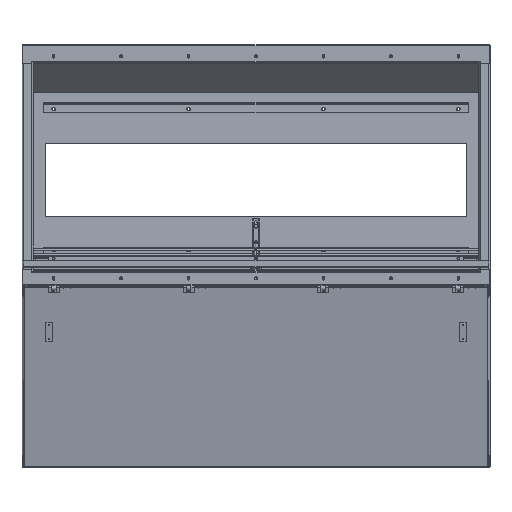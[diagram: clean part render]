
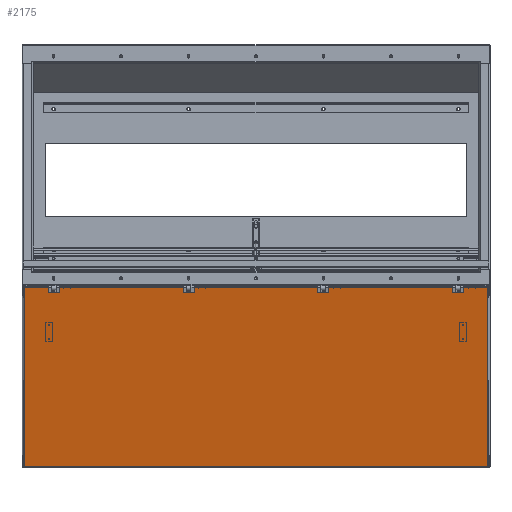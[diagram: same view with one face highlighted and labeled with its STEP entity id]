
A CAD part, top view. The second image highlights one B-rep face of the part: STEP entity #2175.
In plain terms, the highlighted planar face has unit normal (0, -0.208, 0.978) as drawn and (0, -1, 0) by its records, which use the part's own axes.
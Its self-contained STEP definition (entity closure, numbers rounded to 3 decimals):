
#2175 = ADVANCED_FACE( '', ( #3512 ), #3513, .T. );
#3512 = FACE_OUTER_BOUND( '', #5373, .T. );
#3513 = PLANE( '', #5374 );
#5373 = EDGE_LOOP( '', ( #10549, #10550, #10551, #10552, #10553, #10554, #10555, #10556, #10557, #10558, #10559, #10560, #10561, #10562, #10563, #10564, #10565, #10566, #10567, #10568 ) );
#5374 = AXIS2_PLACEMENT_3D( '', #10569, #10570, #10571 );
#10549 = ORIENTED_EDGE( '', *, *, #13900, .T. );
#10550 = ORIENTED_EDGE( '', *, *, #13901, .T. );
#10551 = ORIENTED_EDGE( '', *, *, #13902, .T. );
#10552 = ORIENTED_EDGE( '', *, *, #13903, .F. );
#10553 = ORIENTED_EDGE( '', *, *, #13904, .T. );
#10554 = ORIENTED_EDGE( '', *, *, #13905, .T. );
#10555 = ORIENTED_EDGE( '', *, *, #13906, .T. );
#10556 = ORIENTED_EDGE( '', *, *, #13907, .T. );
#10557 = ORIENTED_EDGE( '', *, *, #13908, .T. );
#10558 = ORIENTED_EDGE( '', *, *, #13909, .T. );
#10559 = ORIENTED_EDGE( '', *, *, #13910, .T. );
#10560 = ORIENTED_EDGE( '', *, *, #13911, .T. );
#10561 = ORIENTED_EDGE( '', *, *, #13912, .T. );
#10562 = ORIENTED_EDGE( '', *, *, #13913, .T. );
#10563 = ORIENTED_EDGE( '', *, *, #13914, .T. );
#10564 = ORIENTED_EDGE( '', *, *, #13915, .T. );
#10565 = ORIENTED_EDGE( '', *, *, #13916, .T. );
#10566 = ORIENTED_EDGE( '', *, *, #13917, .T. );
#10567 = ORIENTED_EDGE( '', *, *, #13918, .T. );
#10568 = ORIENTED_EDGE( '', *, *, #13919, .T. );
#10569 = CARTESIAN_POINT( '', ( -606.425, 0., -241.3 ) );
#10570 = DIRECTION( '', ( 0., -1., 0. ) );
#10571 = DIRECTION( '', ( 0., 0., -1. ) );
#13900 = EDGE_CURVE( '', #16467, #16468, #16469, .T. );
#13901 = EDGE_CURVE( '', #16468, #16470, #16471, .T. );
#13902 = EDGE_CURVE( '', #16470, #16472, #16473, .T. );
#13903 = EDGE_CURVE( '', #16474, #16472, #16475, .T. );
#13904 = EDGE_CURVE( '', #16474, #16476, #16477, .T. );
#13905 = EDGE_CURVE( '', #16476, #16478, #16479, .T. );
#13906 = EDGE_CURVE( '', #16478, #16480, #16481, .T. );
#13907 = EDGE_CURVE( '', #16480, #16482, #16483, .T. );
#13908 = EDGE_CURVE( '', #16482, #16484, #16485, .T. );
#13909 = EDGE_CURVE( '', #16484, #16486, #16487, .T. );
#13910 = EDGE_CURVE( '', #16486, #16488, #16489, .T. );
#13911 = EDGE_CURVE( '', #16488, #16490, #16491, .T. );
#13912 = EDGE_CURVE( '', #16490, #16492, #16493, .T. );
#13913 = EDGE_CURVE( '', #16492, #16494, #16495, .T. );
#13914 = EDGE_CURVE( '', #16494, #16496, #16497, .T. );
#13915 = EDGE_CURVE( '', #16496, #16498, #16499, .T. );
#13916 = EDGE_CURVE( '', #16498, #16500, #16501, .T. );
#13917 = EDGE_CURVE( '', #16500, #16502, #16503, .T. );
#13918 = EDGE_CURVE( '', #16502, #16504, #16505, .T. );
#13919 = EDGE_CURVE( '', #16504, #16467, #16506, .T. );
#16467 = VERTEX_POINT( '', #20472 );
#16468 = VERTEX_POINT( '', #20473 );
#16469 = LINE( '', #20474, #20475 );
#16470 = VERTEX_POINT( '', #20476 );
#16471 = LINE( '', #20477, #20478 );
#16472 = VERTEX_POINT( '', #20479 );
#16473 = LINE( '', #20480, #20481 );
#16474 = VERTEX_POINT( '', #20482 );
#16475 = LINE( '', #20483, #20484 );
#16476 = VERTEX_POINT( '', #20485 );
#16477 = LINE( '', #20486, #20487 );
#16478 = VERTEX_POINT( '', #20488 );
#16479 = LINE( '', #20489, #20490 );
#16480 = VERTEX_POINT( '', #20491 );
#16481 = LINE( '', #20492, #20493 );
#16482 = VERTEX_POINT( '', #20494 );
#16483 = LINE( '', #20495, #20496 );
#16484 = VERTEX_POINT( '', #20497 );
#16485 = LINE( '', #20498, #20499 );
#16486 = VERTEX_POINT( '', #20500 );
#16487 = LINE( '', #20501, #20502 );
#16488 = VERTEX_POINT( '', #20503 );
#16489 = LINE( '', #20504, #20505 );
#16490 = VERTEX_POINT( '', #20506 );
#16491 = LINE( '', #20507, #20508 );
#16492 = VERTEX_POINT( '', #20509 );
#16493 = LINE( '', #20510, #20511 );
#16494 = VERTEX_POINT( '', #20512 );
#16495 = LINE( '', #20513, #20514 );
#16496 = VERTEX_POINT( '', #20515 );
#16497 = LINE( '', #20516, #20517 );
#16498 = VERTEX_POINT( '', #20518 );
#16499 = LINE( '', #20519, #20520 );
#16500 = VERTEX_POINT( '', #20521 );
#16501 = LINE( '', #20522, #20523 );
#16502 = VERTEX_POINT( '', #20524 );
#16503 = LINE( '', #20525, #20526 );
#16504 = VERTEX_POINT( '', #20527 );
#16505 = LINE( '', #20528, #20529 );
#16506 = LINE( '', #20530, #20531 );
#20472 = CARTESIAN_POINT( '', ( 537.08, 0., -227.013 ) );
#20473 = CARTESIAN_POINT( '', ( 537.08, 0., -238.557 ) );
#20474 = CARTESIAN_POINT( '', ( 537.08, 0., -241.3 ) );
#20475 = VECTOR( '', #24037, 1000. );
#20476 = CARTESIAN_POINT( '', ( 603.682, 0., -238.557 ) );
#20477 = CARTESIAN_POINT( '', ( -603.682, 0., -238.557 ) );
#20478 = VECTOR( '', #24038, 1000. );
#20479 = CARTESIAN_POINT( '', ( 603.682, 0., 238.557 ) );
#20480 = CARTESIAN_POINT( '', ( 603.682, 0., -238.557 ) );
#20481 = VECTOR( '', #24039, 1000. );
#20482 = CARTESIAN_POINT( '', ( -603.682, 0., 238.557 ) );
#20483 = CARTESIAN_POINT( '', ( -603.682, 0., 238.557 ) );
#20484 = VECTOR( '', #24040, 1000. );
#20485 = CARTESIAN_POINT( '', ( -603.682, 0., -238.557 ) );
#20486 = CARTESIAN_POINT( '', ( -603.682, 0., 238.557 ) );
#20487 = VECTOR( '', #24041, 1000. );
#20488 = CARTESIAN_POINT( '', ( -537.083, 0., -238.557 ) );
#20489 = CARTESIAN_POINT( '', ( -603.682, 0., -238.557 ) );
#20490 = VECTOR( '', #24042, 1000. );
#20491 = CARTESIAN_POINT( '', ( -537.083, 0., -227.013 ) );
#20492 = CARTESIAN_POINT( '', ( -537.083, 0., -241.3 ) );
#20493 = VECTOR( '', #24043, 1000. );
#20494 = CARTESIAN_POINT( '', ( -517.017, 0., -227.013 ) );
#20495 = CARTESIAN_POINT( '', ( -606.425, 0., -227.013 ) );
#20496 = VECTOR( '', #24044, 1000. );
#20497 = CARTESIAN_POINT( '', ( -517.017, 0., -238.557 ) );
#20498 = CARTESIAN_POINT( '', ( -517.017, 0., -241.3 ) );
#20499 = VECTOR( '', #24045, 1000. );
#20500 = CARTESIAN_POINT( '', ( -185.717, 0., -238.557 ) );
#20501 = CARTESIAN_POINT( '', ( -603.682, 0., -238.557 ) );
#20502 = VECTOR( '', #24046, 1000. );
#20503 = CARTESIAN_POINT( '', ( -185.717, 0., -227.013 ) );
#20504 = CARTESIAN_POINT( '', ( -185.717, 0., -241.3 ) );
#20505 = VECTOR( '', #24047, 1000. );
#20506 = CARTESIAN_POINT( '', ( -165.651, 0., -227.013 ) );
#20507 = CARTESIAN_POINT( '', ( -606.425, 0., -227.013 ) );
#20508 = VECTOR( '', #24048, 1000. );
#20509 = CARTESIAN_POINT( '', ( -165.651, 0., -238.557 ) );
#20510 = CARTESIAN_POINT( '', ( -165.651, 0., -241.3 ) );
#20511 = VECTOR( '', #24049, 1000. );
#20512 = CARTESIAN_POINT( '', ( 165.649, 0., -238.557 ) );
#20513 = CARTESIAN_POINT( '', ( -603.682, 0., -238.557 ) );
#20514 = VECTOR( '', #24050, 1000. );
#20515 = CARTESIAN_POINT( '', ( 165.649, 0., -227.013 ) );
#20516 = CARTESIAN_POINT( '', ( 165.649, 0., -241.3 ) );
#20517 = VECTOR( '', #24051, 1000. );
#20518 = CARTESIAN_POINT( '', ( 185.715, 0., -227.013 ) );
#20519 = CARTESIAN_POINT( '', ( -606.425, 0., -227.013 ) );
#20520 = VECTOR( '', #24052, 1000. );
#20521 = CARTESIAN_POINT( '', ( 185.715, 0., -238.557 ) );
#20522 = CARTESIAN_POINT( '', ( 185.715, 0., -241.3 ) );
#20523 = VECTOR( '', #24053, 1000. );
#20524 = CARTESIAN_POINT( '', ( 517.014, 0., -238.557 ) );
#20525 = CARTESIAN_POINT( '', ( -603.682, 0., -238.557 ) );
#20526 = VECTOR( '', #24054, 1000. );
#20527 = CARTESIAN_POINT( '', ( 517.014, 0., -227.013 ) );
#20528 = CARTESIAN_POINT( '', ( 517.014, 0., -241.3 ) );
#20529 = VECTOR( '', #24055, 1000. );
#20530 = CARTESIAN_POINT( '', ( -606.425, 0., -227.013 ) );
#20531 = VECTOR( '', #24056, 1000. );
#24037 = DIRECTION( '', ( 0., 0., -1. ) );
#24038 = DIRECTION( '', ( 1., 0., 0. ) );
#24039 = DIRECTION( '', ( 0., 0., 1. ) );
#24040 = DIRECTION( '', ( 1., 0., 0. ) );
#24041 = DIRECTION( '', ( 0., 0., -1. ) );
#24042 = DIRECTION( '', ( 1., 0., 0. ) );
#24043 = DIRECTION( '', ( 0., 0., 1. ) );
#24044 = DIRECTION( '', ( 1., 0., 0. ) );
#24045 = DIRECTION( '', ( 0., 0., -1. ) );
#24046 = DIRECTION( '', ( 1., 0., 0. ) );
#24047 = DIRECTION( '', ( 0., 0., 1. ) );
#24048 = DIRECTION( '', ( 1., 0., 0. ) );
#24049 = DIRECTION( '', ( 0., 0., -1. ) );
#24050 = DIRECTION( '', ( 1., 0., 0. ) );
#24051 = DIRECTION( '', ( 0., 0., 1. ) );
#24052 = DIRECTION( '', ( 1., 0., 0. ) );
#24053 = DIRECTION( '', ( 0., 0., -1. ) );
#24054 = DIRECTION( '', ( 1., 0., 0. ) );
#24055 = DIRECTION( '', ( 0., 0., 1. ) );
#24056 = DIRECTION( '', ( 1., 0., 0. ) );
